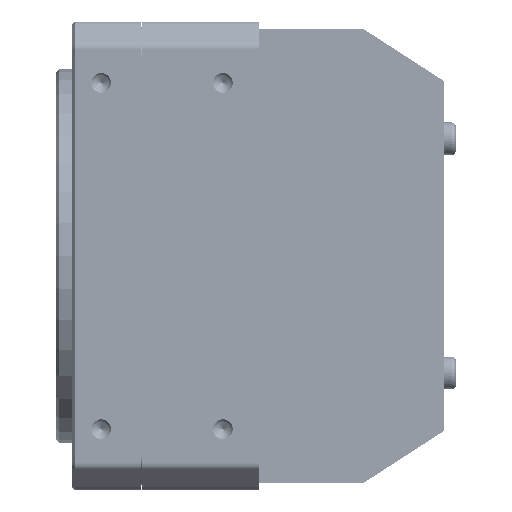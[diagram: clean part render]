
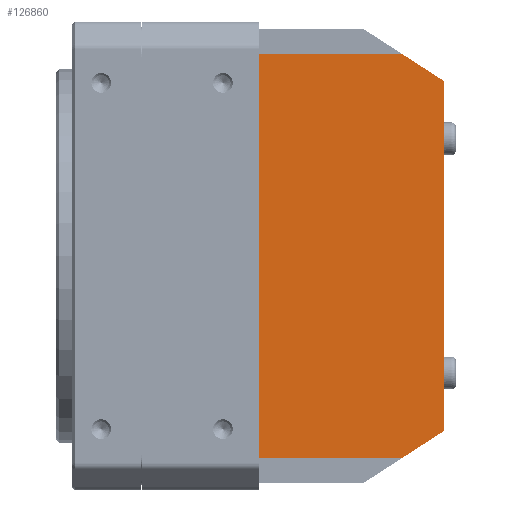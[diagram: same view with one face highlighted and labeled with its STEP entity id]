
A CAD part, front view. The second image highlights one B-rep face of the part: STEP entity #126860.
In plain terms, the highlighted planar face has unit normal (0, -1, 0).
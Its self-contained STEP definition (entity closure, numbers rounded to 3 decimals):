
#17965=DIRECTION('',(0.,0.,1.));
#17966=VECTOR('',#17965,0.258);
#17967=CARTESIAN_POINT('',(36.28,-48.4,-43.472));
#17968=LINE('',#17967,#17966);
#17969=DIRECTION('',(0.,0.,1.));
#17970=VECTOR('',#17969,0.258);
#17971=CARTESIAN_POINT('',(36.28,-48.4,43.214));
#17972=LINE('',#17971,#17970);
#18016=DIRECTION('',(1.,0.,0.));
#18017=VECTOR('',#18016,2.2);
#18018=CARTESIAN_POINT('',(34.08,-48.4,-43.472));
#18019=LINE('',#18018,#18017);
#34709=DIRECTION('',(-1.,0.,0.));
#34710=VECTOR('',#34709,2.2);
#34711=CARTESIAN_POINT('',(36.28,-48.4,43.472));
#34712=LINE('',#34711,#34710);
#34725=DIRECTION('',(0.,0.,-1.));
#34726=VECTOR('',#34725,86.943);
#34727=CARTESIAN_POINT('',(34.08,-48.4,43.472));
#34728=LINE('',#34727,#34726);
#34739=DIRECTION('',(0.84,0.,-0.543));
#34740=VECTOR('',#34739,10.701);
#34741=CARTESIAN_POINT('',(66.919,-48.4,43.214));
#34742=LINE('',#34741,#34740);
#34743=DIRECTION('',(-0.84,0.,-0.543));
#34744=VECTOR('',#34743,10.701);
#34745=CARTESIAN_POINT('',(75.904,-48.4,-37.4));
#34746=LINE('',#34745,#34744);
#34751=DIRECTION('',(-1.,0.,0.));
#34752=VECTOR('',#34751,30.639);
#34753=CARTESIAN_POINT('',(66.919,-48.4,43.214));
#34754=LINE('',#34753,#34752);
#34783=DIRECTION('',(1.,0.,0.));
#34784=VECTOR('',#34783,30.639);
#34785=CARTESIAN_POINT('',(36.28,-48.4,-43.214));
#34786=LINE('',#34785,#34784);
#34803=DIRECTION('',(0.,0.,1.));
#34804=VECTOR('',#34803,74.8);
#34805=CARTESIAN_POINT('',(75.904,-48.4,-37.4));
#34806=LINE('',#34805,#34804);
#97570=CARTESIAN_POINT('',(66.919,-48.4,43.214));
#97571=CARTESIAN_POINT('',(36.28,-48.4,43.214));
#97572=VERTEX_POINT('',#97570);
#97573=VERTEX_POINT('',#97571);
#97574=CARTESIAN_POINT('',(75.904,-48.4,37.4));
#97575=VERTEX_POINT('',#97574);
#97576=CARTESIAN_POINT('',(75.904,-48.4,-37.4));
#97577=CARTESIAN_POINT('',(66.919,-48.4,-43.214));
#97578=VERTEX_POINT('',#97576);
#97579=VERTEX_POINT('',#97577);
#97584=CARTESIAN_POINT('',(34.08,-48.4,-43.472));
#97585=CARTESIAN_POINT('',(36.28,-48.4,-43.472));
#97586=VERTEX_POINT('',#97584);
#97587=VERTEX_POINT('',#97585);
#97588=CARTESIAN_POINT('',(36.28,-48.4,-43.214));
#97589=VERTEX_POINT('',#97588);
#97594=CARTESIAN_POINT('',(36.28,-48.4,43.472));
#97595=VERTEX_POINT('',#97594);
#97672=CARTESIAN_POINT('',(34.08,-48.4,43.472));
#97673=VERTEX_POINT('',#97672);
#126838=CARTESIAN_POINT('',(54.992,-48.4,0.));
#126839=DIRECTION('',(0.,1.,0.));
#126840=DIRECTION('',(1.,0.,0.));
#126841=AXIS2_PLACEMENT_3D('',#126838,#126839,#126840);
#126842=PLANE('',#126841);
#126843=ORIENTED_EDGE('',*,*,#119931,.F.);
#126844=ORIENTED_EDGE('',*,*,#126819,.F.);
#126845=ORIENTED_EDGE('',*,*,#126803,.F.);
#126846=ORIENTED_EDGE('',*,*,#119839,.F.);
#126848=ORIENTED_EDGE('',*,*,#126847,.F.);
#126850=ORIENTED_EDGE('',*,*,#126849,.T.);
#126852=ORIENTED_EDGE('',*,*,#126851,.F.);
#126854=ORIENTED_EDGE('',*,*,#126853,.T.);
#126856=ORIENTED_EDGE('',*,*,#126855,.F.);
#126857=ORIENTED_EDGE('',*,*,#119831,.F.);
#126858=EDGE_LOOP('',(#126843,#126844,#126845,#126846,#126848,#126850,#126852,
#126854,#126856,#126857));
#126859=FACE_OUTER_BOUND('',#126858,.F.);
#126860=ADVANCED_FACE('',(#126859),#126842,.F.);
#119831=EDGE_CURVE('',#97587,#97589,#17968,.T.);
#119839=EDGE_CURVE('',#97573,#97595,#17972,.T.);
#119931=EDGE_CURVE('',#97586,#97587,#18019,.T.);
#126803=EDGE_CURVE('',#97595,#97673,#34712,.T.);
#126819=EDGE_CURVE('',#97673,#97586,#34728,.T.);
#126847=EDGE_CURVE('',#97572,#97573,#34754,.T.);
#126849=EDGE_CURVE('',#97572,#97575,#34742,.T.);
#126851=EDGE_CURVE('',#97578,#97575,#34806,.T.);
#126853=EDGE_CURVE('',#97578,#97579,#34746,.T.);
#126855=EDGE_CURVE('',#97589,#97579,#34786,.T.);
